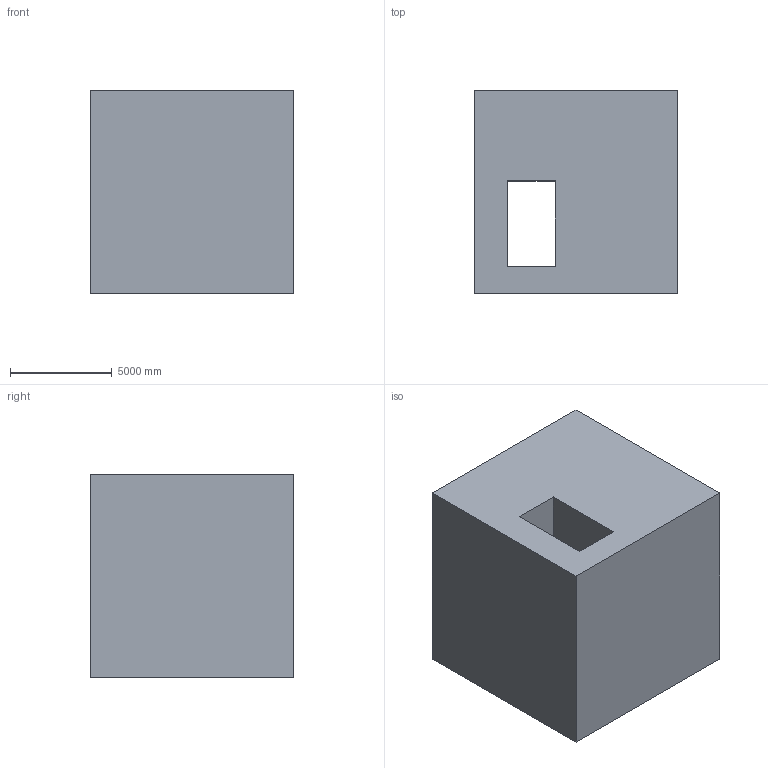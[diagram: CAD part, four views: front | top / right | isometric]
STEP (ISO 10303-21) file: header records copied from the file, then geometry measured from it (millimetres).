
FILE_DESCRIPTION (( 'STEP AP203' ), '1' );
FILE_NAME ('1109.STEP', '2022-08-18T12:47:48', ( 'user' ), ( '' ), 'SwSTEP 2.0', 'SolidWorks 2021', '' );
FILE_SCHEMA (( 'CONFIG_CONTROL_DESIGN' ));
Length unit declared in the file: centimetre
Products named in the file (1): 1109
Bounding box: 10000 x 10000 x 10000 mm (x, y, z)
Volume: 894366621890.6 mm3; surface area: 720091211.8 mm2
Topology: 1 solids, 1 shells, 17 faces, 45 edges, 30 vertices
Faces by surface type: plane 17
Entity records: 600 total; most frequent: CARTESIAN_POINT 93, ORIENTED_EDGE 90, DIRECTION 81, VECTOR 45, LINE 45, EDGE_CURVE 45, VERTEX_POINT 30, EDGE_LOOP 19
